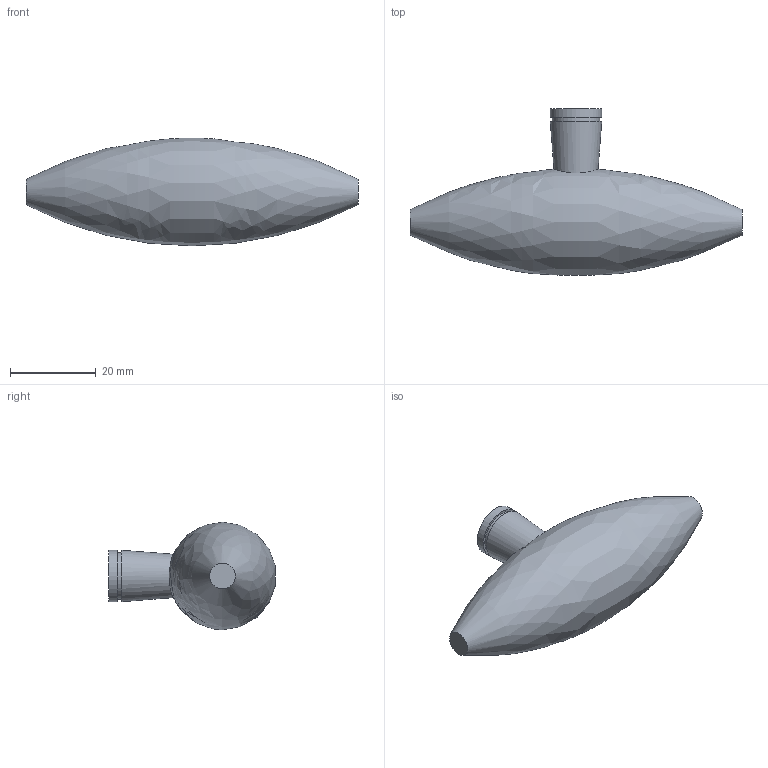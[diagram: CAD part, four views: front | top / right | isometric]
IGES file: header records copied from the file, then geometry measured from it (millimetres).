
Start section: Data from Parasolid IGES Translator 15.0.47, Copyright(c) 2006 Siemens P LM Software. All Rights Reserved.
Global section: file name: 9070510.igs; native system:  By UGS Corp.; preprocessor: XPlus GENERIC/IGES 3.0; author: Noname; organization: Noname; date: 20140122.101208; units: millimetre
Bounding box: 77.4 x 38.91 x 25.1 mm (x, y, z)
Surface area: 5483.1 mm2 (no closed solid volume)
Topology: 0 solids, 0 shells, 11 faces, 30 edges, 22 vertices
Faces by surface type: extrusion 6, revolution 5
